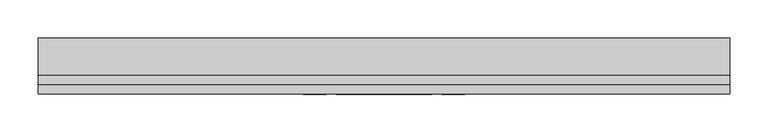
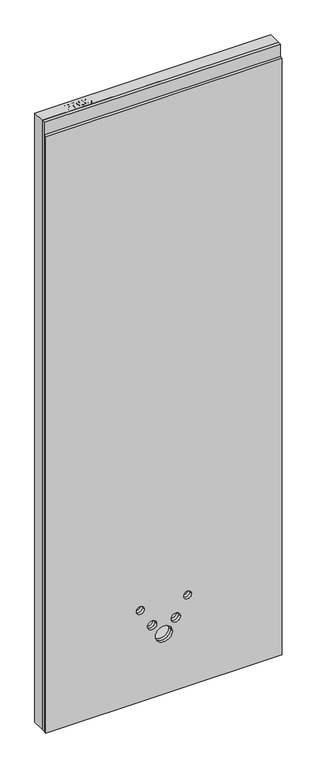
"""IFC4 building model written with IfcOpenShell, lengths in millimetres: proxy geometry, ParedeBidé_Blufab : Parede Bidé - Largura 90 cm."""

from ifc_helpers import new_model, si_unit, point, frame, frame_2d, origin, origin_with_axes, place, context, project, spatial, polyline, circle_curve, trimmed, segment, composite_curve, outline, extrude, source, transform, mapped, element, save


def generic_models_14bfae6f(model_context):
    return source(origin(), model_context, "Body", "SweptSolid", [
        extrude(outline(polyline([(2450.0, 900.0), (2450.0, 0.0), (0.0, 0.0), (0.0, 900.0), (2450.0, 900.0)]), holes=[composite_curve([segment(trimmed(circle_curve(frame_2d((292.0, 405.0)), 17.5), [point((292.0, 422.5))], [point((292.0, 387.5))], True, "CARTESIAN"), True, "CONTINUOUS"), segment(trimmed(circle_curve(frame_2d((292.0, 405.0)), 17.5), [point((292.0, 387.5))], [point((292.0, 422.5))], True, "CARTESIAN"), True, "CONTINUOUS")], self_intersect=False), composite_curve([segment(trimmed(circle_curve(frame_2d((367.0, 360.0)), 15.0), [point((367.0, 375.0))], [point((367.0, 345.0))], True, "CARTESIAN"), True, "CONTINUOUS"), segment(trimmed(circle_curve(frame_2d((367.0, 360.0)), 15.0), [point((367.0, 345.0))], [point((367.0, 375.0))], True, "CARTESIAN"), True, "CONTINUOUS")], self_intersect=False), composite_curve([segment(trimmed(circle_curve(frame_2d((242.0, 450.0)), 32.0), [point((242.0, 482.0))], [point((242.0, 418.0))], True, "CARTESIAN"), True, "CONTINUOUS"), segment(trimmed(circle_curve(frame_2d((242.0, 450.0)), 32.0), [point((242.0, 418.0))], [point((242.0, 482.0))], True, "CARTESIAN"), True, "CONTINUOUS")], self_intersect=False), composite_curve([segment(trimmed(circle_curve(frame_2d((292.0, 495.0)), 17.5), [point((292.0, 512.5))], [point((292.0, 477.5))], True, "CARTESIAN"), True, "CONTINUOUS"), segment(trimmed(circle_curve(frame_2d((292.0, 495.0)), 17.5), [point((292.0, 477.5))], [point((292.0, 512.5))], True, "CARTESIAN"), True, "CONTINUOUS")], self_intersect=False), composite_curve([segment(trimmed(circle_curve(frame_2d((367.0, 540.0)), 15.0), [point((367.0, 555.0))], [point((367.0, 525.0))], True, "CARTESIAN"), True, "CONTINUOUS"), segment(trimmed(circle_curve(frame_2d((367.0, 540.0)), 15.0), [point((367.0, 525.0))], [point((367.0, 555.0))], True, "CARTESIAN"), True, "CONTINUOUS")], self_intersect=False)]), frame((0.0, 25.0126803, 0.0), z_axis=(0.0, 1.0, 0.0), x_axis=(0.0, 0.0, 1.0)), (0.0, 0.0, 1.0), 47.9873197),
        extrude(outline(polyline([(2450.0, 900.0), (2450.0, 0.0), (0.0, 0.0), (0.0, 900.0), (2450.0, 900.0)]), holes=[composite_curve([segment(trimmed(circle_curve(frame_2d((292.0, 405.0)), 17.5), [point((292.0, 422.5))], [point((292.0, 387.5))], True, "CARTESIAN"), True, "CONTINUOUS"), segment(trimmed(circle_curve(frame_2d((292.0, 405.0)), 17.5), [point((292.0, 387.5))], [point((292.0, 422.5))], True, "CARTESIAN"), True, "CONTINUOUS")], self_intersect=False), composite_curve([segment(trimmed(circle_curve(frame_2d((367.0, 360.0)), 15.0), [point((367.0, 375.0))], [point((367.0, 345.0))], True, "CARTESIAN"), True, "CONTINUOUS"), segment(trimmed(circle_curve(frame_2d((367.0, 360.0)), 15.0), [point((367.0, 345.0))], [point((367.0, 375.0))], True, "CARTESIAN"), True, "CONTINUOUS")], self_intersect=False), composite_curve([segment(trimmed(circle_curve(frame_2d((242.0, 450.0)), 32.0), [point((242.0, 482.0))], [point((242.0, 418.0))], True, "CARTESIAN"), True, "CONTINUOUS"), segment(trimmed(circle_curve(frame_2d((242.0, 450.0)), 32.0), [point((242.0, 418.0))], [point((242.0, 482.0))], True, "CARTESIAN"), True, "CONTINUOUS")], self_intersect=False), composite_curve([segment(trimmed(circle_curve(frame_2d((292.0, 495.0)), 17.5), [point((292.0, 512.5))], [point((292.0, 477.5))], True, "CARTESIAN"), True, "CONTINUOUS"), segment(trimmed(circle_curve(frame_2d((292.0, 495.0)), 17.5), [point((292.0, 477.5))], [point((292.0, 512.5))], True, "CARTESIAN"), True, "CONTINUOUS")], self_intersect=False), composite_curve([segment(trimmed(circle_curve(frame_2d((367.0, 540.0)), 15.0), [point((367.0, 555.0))], [point((367.0, 525.0))], True, "CARTESIAN"), True, "CONTINUOUS"), segment(trimmed(circle_curve(frame_2d((367.0, 540.0)), 15.0), [point((367.0, 525.0))], [point((367.0, 555.0))], True, "CARTESIAN"), True, "CONTINUOUS")], self_intersect=False)]), frame((0.0, 12.5126803, 0.0), z_axis=(0.0, 1.0, 0.0), x_axis=(0.0, 0.0, 1.0)), (0.0, 0.0, 1.0), 12.5),
        extrude(outline(polyline([(2400.0, 900.0), (2400.0, 0.0), (0.0, 0.0), (0.0, 900.0), (2400.0, 900.0)]), holes=[composite_curve([segment(trimmed(circle_curve(frame_2d((292.0, 405.0)), 17.5), [point((292.0, 422.5))], [point((292.0, 387.5))], True, "CARTESIAN"), True, "CONTINUOUS"), segment(trimmed(circle_curve(frame_2d((292.0, 405.0)), 17.5), [point((292.0, 387.5))], [point((292.0, 422.5))], True, "CARTESIAN"), True, "CONTINUOUS")], self_intersect=False), composite_curve([segment(trimmed(circle_curve(frame_2d((367.0, 360.0)), 15.0), [point((367.0, 375.0))], [point((367.0, 345.0))], True, "CARTESIAN"), True, "CONTINUOUS"), segment(trimmed(circle_curve(frame_2d((367.0, 360.0)), 15.0), [point((367.0, 345.0))], [point((367.0, 375.0))], True, "CARTESIAN"), True, "CONTINUOUS")], self_intersect=False), composite_curve([segment(trimmed(circle_curve(frame_2d((242.0, 450.0)), 32.0), [point((242.0, 482.0))], [point((242.0, 418.0))], True, "CARTESIAN"), True, "CONTINUOUS"), segment(trimmed(circle_curve(frame_2d((242.0, 450.0)), 32.0), [point((242.0, 418.0))], [point((242.0, 482.0))], True, "CARTESIAN"), True, "CONTINUOUS")], self_intersect=False), composite_curve([segment(trimmed(circle_curve(frame_2d((292.0, 495.0)), 17.5), [point((292.0, 512.5))], [point((292.0, 477.5))], True, "CARTESIAN"), True, "CONTINUOUS"), segment(trimmed(circle_curve(frame_2d((292.0, 495.0)), 17.5), [point((292.0, 477.5))], [point((292.0, 512.5))], True, "CARTESIAN"), True, "CONTINUOUS")], self_intersect=False), composite_curve([segment(trimmed(circle_curve(frame_2d((367.0, 540.0)), 15.0), [point((367.0, 555.0))], [point((367.0, 525.0))], True, "CARTESIAN"), True, "CONTINUOUS"), segment(trimmed(circle_curve(frame_2d((367.0, 540.0)), 15.0), [point((367.0, 525.0))], [point((367.0, 555.0))], True, "CARTESIAN"), True, "CONTINUOUS")], self_intersect=False)]), frame((0.0, 0.0, 0.0), z_axis=(0.0, 1.0, 0.0), x_axis=(0.0, 0.0, 1.0)), (0.0, 0.0, 1.0), 12.5),
        extrude(outline(polyline([(102.4402157, 34.0063401), (102.4402157, 64.1432332), (113.609113, 64.1432332), (118.1119887, 63.8562852), (121.7724145, 62.4472972), (124.1452534, 59.5336718), (125.0428854, 55.4244299), (122.6185431, 48.9129186), (113.8666304, 46.2494529), (106.2073273, 46.2494529), (106.2073273, 34.0063401), (102.4402157, 34.0063401)]), holes=[polyline([(106.2073273, 50.0165646), (114.0873596, 50.0165646), (119.6350201, 51.3998009), (121.2757738, 55.2919924), (120.3082442, 58.4116317), (117.7661796, 60.1186041), (113.999068, 60.3761215), (106.2073273, 60.3761215), (106.2073273, 50.0165646)])]), origin_with_axes(), (0.0, 0.0, 1.0), 2450.0),
        extrude(outline(polyline([(130.2226639, 34.0063401), (130.2226639, 64.1432332), (141.7226551, 64.1432332), (147.3549285, 63.2566376), (150.6805817, 60.530632), (151.8835558, 56.6752287), (150.8718803, 53.154598), (147.8147809, 50.4874535), (151.5267103, 47.6768351), (152.8253337, 42.9900185), (151.9387381, 38.9396377), (149.7424826, 36.0554428), (146.464654, 34.5250537), (141.6343634, 34.0063401), (130.2226639, 34.0063401)]), holes=[polyline([(133.9897756, 51.9001204), (140.8691689, 51.9001204), (144.8864403, 52.2238565), (147.303425, 53.6181293), (148.1164442, 56.0719022), (147.3586073, 58.5293539), (145.1881035, 59.9824878), (140.3467764, 60.3761215), (133.9897756, 60.3761215), (133.9897756, 51.9001204)]), polyline([(133.9897756, 37.7734518), (141.7152975, 37.7734518), (144.5112006, 37.9206046), (146.8766819, 38.7409814), (148.4438592, 40.4148445), (149.0582221, 42.9532303), (148.3371734, 45.8815709), (146.0011227, 47.6290104), (141.3474155, 48.1330087), (133.9897756, 48.1330087), (133.9897756, 37.7734518)])]), origin_with_axes(), (0.0, 0.0, 1.0), 2450.0),
        extrude(outline(polyline([(157.0633343, 41.5405634), (160.8304459, 42.0114523), (162.5227031, 38.4172453), (165.7306341, 37.3025628), (168.7803759, 38.0199327), (170.8478727, 39.9365979), (172.0802774, 43.2107476), (172.6247427, 47.5811858), (169.5897162, 45.4621855), (165.4584014, 44.3658971), (159.1639405, 47.044078), (156.5924454, 54.1000547), (159.2890204, 61.3841182), (166.0470126, 64.1432332), (171.4144109, 62.5686982), (175.1079462, 58.0805379), (176.3697814, 49.6486826), (175.111625, 40.4994573), (171.3702651, 35.316), (165.5540508, 33.5354512), (159.7635882, 35.6360574), (157.0633343, 41.5405634)]), holes=[polyline([(172.6026698, 54.1883464), (170.9766314, 58.7059373), (166.6576967, 60.3761215), (162.1253906, 58.5771786), (160.359557, 53.9161137), (162.0297412, 49.7406531), (166.5546898, 48.1330087), (170.8993761, 49.7406531), (172.6026698, 54.1883464)])]), origin_with_axes(), (0.0, 0.0, 1.0), 2450.0),
        extrude(outline(polyline([(179.6660041, 48.8319845), (180.7733289, 57.5029632), (184.0621939, 62.5024795), (189.5546721, 64.1432332), (193.9545408, 63.1720247), (196.9932461, 60.3724427), (198.7590796, 55.9137129), (199.4433402, 48.8319845), (198.3470518, 40.1977941), (195.0692232, 35.1872413), (189.5546721, 33.5354512), (182.6679212, 36.4049307), (179.6660041, 48.8319845)]), holes=[polyline([(183.4331157, 48.8393422), (185.1989493, 39.484103), (189.5546721, 37.3025628), (193.9103949, 39.4914607), (195.6762285, 48.8393422), (193.9692561, 58.0878955), (189.5105263, 60.3761215), (185.2578104, 58.3601282), (183.4331157, 48.8393422)])]), origin_with_axes(), (0.0, 0.0, 1.0), 2450.0),
    ])


if __name__ == "__main__":
    model = new_model("IFC4")
    model_context = context("Model", 3, world=origin())
    ifc_project = project(units=[si_unit("LENGTHUNIT", "METRE", prefix="MILLI")], contexts=[model_context])
    site = spatial("IfcSite", under=ifc_project)
    building = spatial("IfcBuilding", under=site)
    placement = place(None, origin())
    generic_models_shape = generic_models_14bfae6f(model_context)
    element("IfcBuildingElementProxy", 1, Name="ParedeBidé_Blufab : Parede Bidé - Largura 90 cm", ObjectType="ParedeBidé_Blufab : Parede Bidé - Largura 90 cm", at=placement, inside=building, context=model_context, shape_type="MappedRepresentation", body=[
        mapped(generic_models_shape, transform((0.0, 0.0, 0.0), x_axis=(1.0, 0.0, 0.0), y_axis=(0.0, 1.0, 0.0), z_axis=(0.0, 0.0, 1.0))),
    ])
    save(model, "model.ifc")
